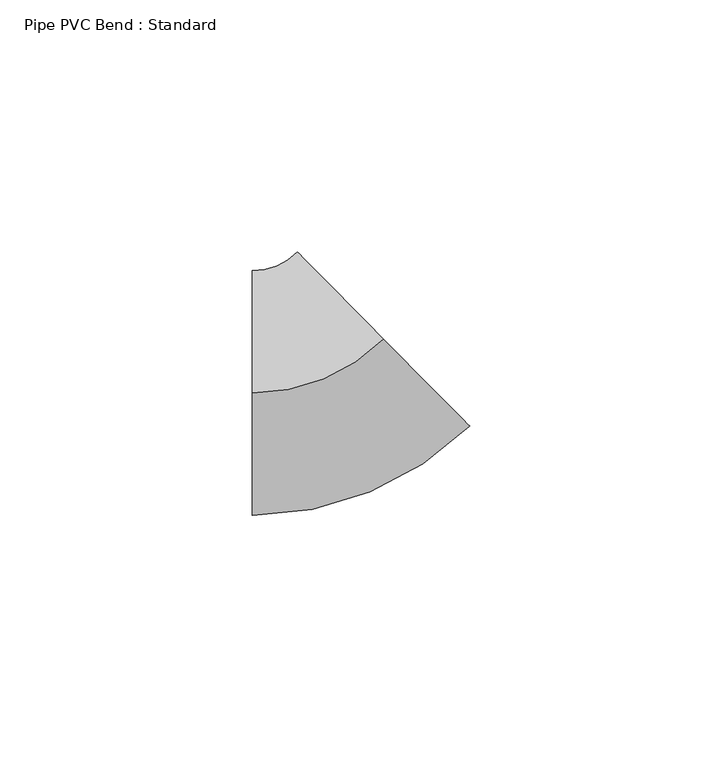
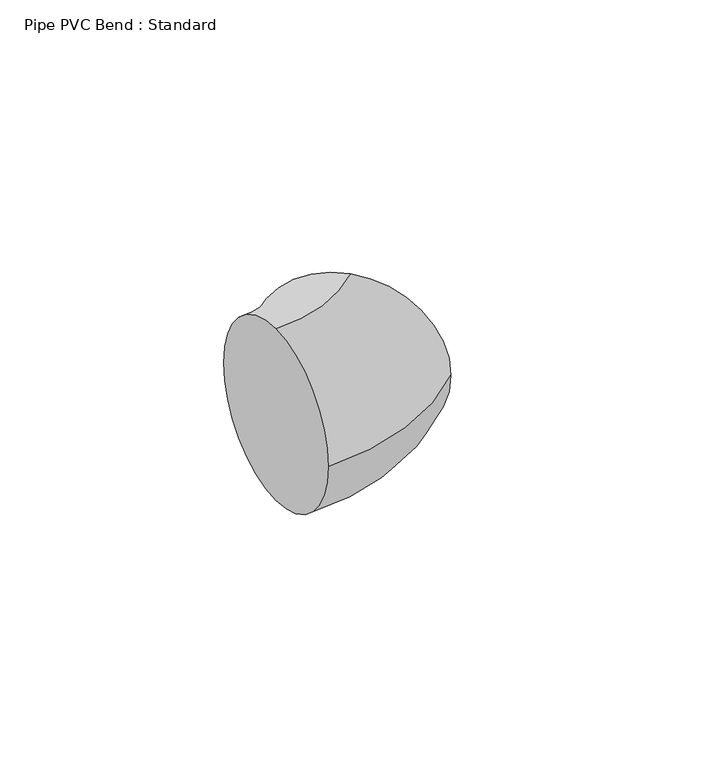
"""IFC4 building model written with IfcOpenShell, lengths in millimetres: pipe fitting geometry, Pipe PVC Bend : Standard."""

import ifcopenshell
import ifcopenshell.guid

model = None  # the IFC model being written
_history = None  # IfcOwnerHistory: only IFC2X3 demands one
_inside = {}  # id of a spatial element -> (the spatial element, [elements in it])
_under = {}  # id of a project, library or spatial element -> (it, [spatial elements below it])
_declared = {}  # id of a project -> (the project, [libraries it declares])
_typed = {}  # id of a type object -> (the type object, [elements of that type])
_made_of = {}  # id of a material, layer set ... -> (it, [elements and type objects made of it])


def new_model(schema):
    """Start an empty IFC model of exactly this schema.

    Asked for "IFC4X3", IfcOpenShell would pick the latest addendum, in which some entities
    have other attributes; the version numbers below select the first issue.
    IFC2X3 requires an IfcOwnerHistory on every rooted entity: one is made here for all.
    """
    global model, _history
    if schema == "IFC4X3":
        model = ifcopenshell.file(schema_version=(4, 3, 0, 0))
    else:
        model = ifcopenshell.file(schema=schema)
    _inside.clear()
    _under.clear()
    _declared.clear()
    _typed.clear()
    _made_of.clear()
    _history = None
    if model.schema == "IFC2X3":
        org = make("IfcOrganization", Name="unknown")
        user = make(
            "IfcPersonAndOrganization",
            ThePerson=make("IfcPerson", FamilyName="unknown"),
            TheOrganization=org,
        )
        app = make(
            "IfcApplication",
            ApplicationDeveloper=org,
            Version="unknown",
            ApplicationFullName="unknown",
            ApplicationIdentifier="unknown",
        )
        _history = make(
            "IfcOwnerHistory",
            OwningUser=user,
            OwningApplication=app,
            ChangeAction="ADDED",
            CreationDate=0,
        )
    return model


def make(cls, **values):
    """One entity of the class cls with the attributes given. An attribute that is None is left unset."""
    return model.create_entity(
        cls, **{name: value for name, value in values.items() if value is not None}
    )


def rooted(cls, **values):
    """An entity with a GlobalId (a new one), such as an element, a storey or a relation."""
    return make(cls, GlobalId=ifcopenshell.guid.new(), OwnerHistory=_history, **values)


def si_unit(unit_type, name, prefix=None):
    """IfcSIUnit, for example si_unit("LENGTHUNIT", "METRE", prefix="MILLI")."""
    return make("IfcSIUnit", UnitType=unit_type, Prefix=prefix, Name=name)


def assignment(units):
    """IfcUnitAssignment: the units of a project."""
    return None if units is None else make("IfcUnitAssignment", Units=units)


def point(xyz):
    """IfcCartesianPoint."""
    return None if xyz is None else make("IfcCartesianPoint", Coordinates=xyz)


def direction(xyz):
    """IfcDirection."""
    return None if xyz is None else make("IfcDirection", DirectionRatios=xyz)


def frame(location, z_axis=None, x_axis=None):
    """IfcAxis2Placement3D, a coordinate frame: its origin and axes. An axis left out is left unset."""
    return make(
        "IfcAxis2Placement3D",
        Location=point(location),
        Axis=direction(z_axis),
        RefDirection=direction(x_axis),
    )


def origin():
    """The frame at (0, 0, 0) with its axes left unset."""
    return frame((0.0, 0.0, 0.0))


def place(relative_to, where):
    """IfcLocalPlacement: puts the frame where relative to a parent placement (None: the world)."""
    return make(
        "IfcLocalPlacement", PlacementRelTo=relative_to, RelativePlacement=where
    )


def context(
    kind, dimensions, precision=None, world=None, true_north=None, identifier=None
):
    """IfcGeometricRepresentationContext, for example the 3D "Model" context."""
    return make(
        "IfcGeometricRepresentationContext",
        ContextIdentifier=identifier,
        ContextType=kind,
        CoordinateSpaceDimension=dimensions,
        Precision=precision,
        WorldCoordinateSystem=world,
        TrueNorth=true_north,
    )


def project(units=None, contexts=None):
    """IfcProject with its units and contexts."""
    return rooted(
        "IfcProject",
        Name="project",
        RepresentationContexts=contexts,
        UnitsInContext=assignment(units),
    )


def spatial(cls, under=None, at=None, **own):
    """A site, building, storey or space (cls), placed at a placement, below another one or the project."""
    s = rooted(cls, ObjectPlacement=at, **own)
    if under is not None:
        _under.setdefault(under.id(), (under, []))[1].append(s)
    return s


def circle_curve(where, radius):
    """IfcCircle in the frame where."""
    return make("IfcCircle", Position=where, Radius=radius)


def ellipse_curve(where, semi_axis1, semi_axis2):
    """IfcEllipse in the frame where."""
    return make(
        "IfcEllipse", Position=where, SemiAxis1=semi_axis1, SemiAxis2=semi_axis2
    )


def trimmed(basis, trim1, trim2, sense, master):
    """IfcTrimmedCurve: the piece of a basis curve between two trims."""
    return make(
        "IfcTrimmedCurve",
        BasisCurve=basis,
        Trim1=trim1,
        Trim2=trim2,
        SenseAgreement=sense,
        MasterRepresentation=master,
    )


def shape(context_of_items, identifier, shape_type, items):
    """IfcShapeRepresentation: the items that make up one representation, for example the "Body"."""
    return make(
        "IfcShapeRepresentation",
        ContextOfItems=context_of_items,
        RepresentationIdentifier=identifier,
        RepresentationType=shape_type,
        Items=items,
    )


def source(mapping_origin, context_of_items, identifier, shape_type, items):
    """IfcRepresentationMap: a shape defined once, which mapped items show again and again."""
    return make(
        "IfcRepresentationMap",
        MappingOrigin=mapping_origin,
        MappedRepresentation=shape(context_of_items, identifier, shape_type, items),
    )


def transform(
    local_origin,
    x_axis=None,
    y_axis=None,
    z_axis=None,
    scale=None,
    scale2=None,
    scale3=None,
    uniform=True,
):
    """IfcCartesianTransformationOperator3D, or its non-uniform kind. x_axis, y_axis, z_axis: its Axis1, 2, 3."""
    if uniform:
        return make(
            "IfcCartesianTransformationOperator3D",
            Axis1=direction(x_axis),
            Axis2=direction(y_axis),
            LocalOrigin=point(local_origin),
            Scale=scale,
            Axis3=direction(z_axis),
        )
    return make(
        "IfcCartesianTransformationOperator3DnonUniform",
        Axis1=direction(x_axis),
        Axis2=direction(y_axis),
        LocalOrigin=point(local_origin),
        Scale=scale,
        Axis3=direction(z_axis),
        Scale2=scale2,
        Scale3=scale3,
    )


def mapped(mapping_source, mapping_target):
    """IfcMappedItem: shows the shape of a source again, moved by a transform."""
    return make(
        "IfcMappedItem", MappingSource=mapping_source, MappingTarget=mapping_target
    )


def made_of(thing, what):
    """Note that an element or type object is made of a material, layer set ...; save() writes the relation."""
    if what is not None:
        _made_of.setdefault(what.id(), (what, []))[1].append(thing)
    return thing


def element(
    cls,
    number,
    at=None,
    inside=None,
    cuts=None,
    type_object=None,
    material=None,
    context=None,
    identifier="Body",
    shape_type=None,
    held_by="IfcProductDefinitionShape",
    body=None,
    shapes=None,
    **own,
):
    """One element of the class cls, such as IfcWall. Its Tag is "e" and its number.

    at: its placement. inside: the storey or other place that contains it. cuts: it is an
    opening in that element (IfcRelVoidsElement). A single representation is given by context,
    identifier, shape_type and body (its items); several are given by shapes. held_by: the class
    of the entity that holds the representations. save() writes the other relations.
    """
    e = rooted(cls, Tag="e%d" % number, ObjectPlacement=at, **own)
    if body is not None:
        shapes = [shape(context, identifier, shape_type, body)]
    if shapes is not None:
        e.Representation = make(held_by, Representations=shapes)
    if inside is not None:
        _inside.setdefault(inside.id(), (inside, []))[1].append(e)
    if cuts is not None:
        rooted(
            "IfcRelVoidsElement", RelatingBuildingElement=cuts, RelatedOpeningElement=e
        )
    if type_object is not None:
        _typed.setdefault(type_object.id(), (type_object, []))[1].append(e)
    return made_of(e, material)


def aggregate(whole, parts):
    """IfcRelAggregates: a whole, such as a stair, and the parts it consists of."""
    return rooted("IfcRelAggregates", RelatingObject=whole, RelatedObjects=parts)


def save(model, path):
    """Write the relations noted so far, then the file.

    IfcRelAggregates (storeys below a building ...), IfcRelContainedInSpatialStructure (elements
    in a storey), IfcRelDefinesByType, IfcRelAssociatesMaterial and IfcRelDeclares: one each for
    every whole, place, type object, material and project.
    """
    for whole, parts in _under.values():
        aggregate(whole, parts)
    for where, things in _inside.values():
        rooted(
            "IfcRelContainedInSpatialStructure",
            RelatedElements=things,
            RelatingStructure=where,
        )
    for kind, things in _typed.values():
        rooted("IfcRelDefinesByType", RelatedObjects=things, RelatingType=kind)
    for what, things in _made_of.values():
        rooted("IfcRelAssociatesMaterial", RelatedObjects=things, RelatingMaterial=what)
    for by, libraries in _declared.values():
        rooted("IfcRelDeclares", RelatingContext=by, RelatedDefinitions=libraries)
    model.write(path)


def plane_surface(at):
    """IfcPlane: the flat surface through the origin of the frame at, square to its z axis."""
    return make("IfcPlane", Position=at)


def revolved_surface(curve, axis_point, axis_direction):
    """IfcSurfaceOfRevolution: the curve turned about the line through axis_point along axis_direction."""
    return make(
        "IfcSurfaceOfRevolution",
        SweptCurve=make("IfcArbitraryOpenProfileDef", ProfileType="CURVE", Curve=curve),
        AxisPosition=make("IfcAxis1Placement", Location=point(axis_point), Axis=direction(axis_direction)),
    )


def advanced_brep(points, edges, surfaces, faces):
    """IfcAdvancedBrep: a solid bounded by faces that lie on surfaces and meet in shared edges.

    An edge is (start, end): straight between two places in points (the first is 0);
    or (start, end, curve); or (start, end, curve, False) where it runs against its curve.
    A face is (place in surfaces, loops), or (place, loops, False) where it looks against
    its surface's normal. A loop lists edges by number (the first is 1), with a minus sign
    where the edge is run from its end to its start. The first loop is the outer one.
    """
    corners = [point(p) for p in points]
    vertices = [make("IfcVertexPoint", VertexGeometry=c) for c in corners]
    made = []
    for start, end, *more in edges:
        made.append(
            make(
                "IfcEdgeCurve",
                EdgeStart=vertices[start],
                EdgeEnd=vertices[end],
                EdgeGeometry=more[0] if more else make("IfcPolyline", Points=[corners[start], corners[end]]),
                SameSense=more[1] if len(more) > 1 else True,
            )
        )
    hull = []
    for where, loops, *sense in faces:
        bounds = []
        for j, loop in enumerate(loops):
            ring = [make("IfcOrientedEdge", EdgeElement=made[abs(k) - 1], Orientation=k > 0) for k in loop]
            bounds.append(
                make(
                    "IfcFaceOuterBound" if j == 0 else "IfcFaceBound",
                    Bound=make("IfcEdgeLoop", EdgeList=ring),
                    Orientation=True,
                )
            )
        hull.append(make("IfcAdvancedFace", Bounds=bounds, FaceSurface=surfaces[where], SameSense=sense[0] if sense else True))
    return make("IfcAdvancedBrep", Outer=make("IfcClosedShell", CfsFaces=hull))


def pipe_pvc_bend_standard_f934f846(model_context):
    return source(origin(), model_context, "Body", "AdvancedBrep", [
        advanced_brep(
        [(-15.1954612, 0.0, 24.257), (-15.1954612, 24.257, 0.0), (-15.1954612, 0.0, -24.257), (-15.1954612, -24.257, 0.0), (10.8006282, 10.6887076, 24.257), (27.8633536, -6.5526801, 0.0), (10.8006282, 10.6887076, -24.257), (-6.2620971, 27.9300954, 0.0)],
        [
            (0, 1, circle_curve(frame((-15.1954612, 0.0, 0.0), z_axis=(-1.0, 0.0, 0.0), x_axis=(0.0, 1.0, 0.0)), 24.257)),
            (1, 2, circle_curve(frame((-15.1954612, 0.0, 0.0), z_axis=(-1.0, 0.0, 0.0), x_axis=(0.0, 1.0, 0.0)), 24.257)),
            (2, 3, circle_curve(frame((-15.1954612, 0.0, 0.0), z_axis=(-1.0, 0.0, 0.0), x_axis=(0.0, 1.0, 0.0)), 24.257)),
            (3, 0, circle_curve(frame((-15.1954612, 0.0, 0.0), z_axis=(-1.0, 0.0, 0.0), x_axis=(0.0, 1.0, 0.0)), 24.257)),
            (4, 5, circle_curve(frame((10.8006282, 10.6887076, 0.0), z_axis=(0.7107798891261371, 0.703414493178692, 0.0), x_axis=(-0.703414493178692, 0.7107798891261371, 0.0)), 24.257)),
            (5, 6, circle_curve(frame((10.8006282, 10.6887076, 0.0), z_axis=(0.7107798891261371, 0.703414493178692, 0.0), x_axis=(-0.703414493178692, 0.7107798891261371, 0.0)), 24.257)),
            (6, 7, circle_curve(frame((10.8006282, 10.6887076, 0.0), z_axis=(0.7107798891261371, 0.703414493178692, 0.0), x_axis=(-0.703414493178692, 0.7107798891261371, 0.0)), 24.257)),
            (7, 4, circle_curve(frame((10.8006282, 10.6887076, 0.0), z_axis=(0.7107798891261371, 0.703414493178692, 0.0), x_axis=(-0.703414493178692, 0.7107798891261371, 0.0)), 24.257)),
            (7, 1, circle_curve(frame((-15.1954612, 36.957, 0.0), z_axis=(0.0, 0.0, -1.0), x_axis=(0.0, -1.0, 0.0)), 12.7)),
            (0, 4, circle_curve(frame((-15.1954612, 36.957, 24.257), z_axis=(0.0, 0.0, 1.0), x_axis=(0.0, -1.0, 0.0)), 36.957)),
            (6, 2, circle_curve(frame((-15.1954612, 36.957, -24.257), z_axis=(0.0, 0.0, -1.0), x_axis=(0.0, -1.0, 0.0)), 36.957)),
            (5, 3, circle_curve(frame((-15.1954612, 36.957, 0.0), z_axis=(0.0, 0.0, -1.0), x_axis=(0.0, -1.0, 0.0)), 61.214)),
        ],
        [
            plane_surface(frame((-15.1954612, 0.0, 0.0), z_axis=(-1.0, 0.0, 0.0), x_axis=(0.0, 0.0, 1.0))),
            plane_surface(frame((10.8006282, 10.6887076, 0.0), z_axis=(0.7107798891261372, 0.7034144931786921, 0.0), x_axis=(0.0, 0.0, 1.0))),
            revolved_surface(trimmed(ellipse_curve(frame((-15.1954612, 0.0, 0.0), z_axis=(-1.0, 0.0, 0.0), x_axis=(0.0, 1.0, 0.0)), 24.257, 24.257), [point((-15.1954612, 0.0, 24.257))], [point((-15.1954612, 24.257, 0.0))], True, "CARTESIAN"), (-15.1954612, 36.957, 0.0), (0.0, 0.0, 1.0)),
            revolved_surface(trimmed(ellipse_curve(frame((-15.1954612, 0.0, 0.0), z_axis=(-1.0, 0.0, 0.0), x_axis=(0.0, 1.0, 0.0)), 24.257, 24.257), [point((-15.1954612, 24.257, 0.0))], [point((-15.1954612, 0.0, -24.257))], True, "CARTESIAN"), (-15.1954612, 36.957, 0.0), (0.0, 0.0, 1.0)),
            revolved_surface(trimmed(ellipse_curve(frame((-15.1954612, 0.0, 0.0), z_axis=(-1.0, 0.0, 0.0), x_axis=(0.0, 1.0, 0.0)), 24.257, 24.257), [point((-15.1954612, 0.0, -24.257))], [point((-15.1954612, -24.257, 0.0))], True, "CARTESIAN"), (-15.1954612, 36.957, 0.0), (0.0, 0.0, 1.0)),
            revolved_surface(trimmed(ellipse_curve(frame((-15.1954612, 0.0, 0.0), z_axis=(-1.0, 0.0, 0.0), x_axis=(0.0, 1.0, 0.0)), 24.257, 24.257), [point((-15.1954612, -24.257, 0.0))], [point((-15.1954612, 0.0, 24.257))], True, "CARTESIAN"), (-15.1954612, 36.957, 0.0), (0.0, 0.0, 1.0)),
        ],
        [
            (0, [[1, 2, 3, 4]]),
            (1, [[5, 6, 7, 8]]),
            (2, [[9, -1, 10, -8]]),
            (3, [[11, -2, -9, -7]]),
            (4, [[12, -3, -11, -6]]),
            (5, [[-10, -4, -12, -5]]),
        ],
    ),
        advanced_brep(
        [(-15.1954612, 0.0, 24.257), (-15.1954612, 24.257, 0.0), (-15.1954612, 0.0, -24.257), (-15.1954612, -24.257, 0.0), (10.8006282, 10.6887076, 24.257), (27.8633536, -6.5526801, 0.0), (10.8006282, 10.6887076, -24.257), (-6.2620971, 27.9300954, 0.0)],
        [
            (0, 1, circle_curve(frame((-15.1954612, 0.0, 0.0), z_axis=(-1.0, 0.0, 0.0), x_axis=(0.0, 1.0, 0.0)), 24.257)),
            (1, 2, circle_curve(frame((-15.1954612, 0.0, 0.0), z_axis=(-1.0, 0.0, 0.0), x_axis=(0.0, 1.0, 0.0)), 24.257)),
            (2, 3, circle_curve(frame((-15.1954612, 0.0, 0.0), z_axis=(-1.0, 0.0, 0.0), x_axis=(0.0, 1.0, 0.0)), 24.257)),
            (3, 0, circle_curve(frame((-15.1954612, 0.0, 0.0), z_axis=(-1.0, 0.0, 0.0), x_axis=(0.0, 1.0, 0.0)), 24.257)),
            (4, 5, circle_curve(frame((10.8006282, 10.6887076, 0.0), z_axis=(0.7107798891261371, 0.703414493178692, 0.0), x_axis=(-0.703414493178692, 0.7107798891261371, 0.0)), 24.257)),
            (5, 6, circle_curve(frame((10.8006282, 10.6887076, 0.0), z_axis=(0.7107798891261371, 0.703414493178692, 0.0), x_axis=(-0.703414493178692, 0.7107798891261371, 0.0)), 24.257)),
            (6, 7, circle_curve(frame((10.8006282, 10.6887076, 0.0), z_axis=(0.7107798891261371, 0.703414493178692, 0.0), x_axis=(-0.703414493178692, 0.7107798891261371, 0.0)), 24.257)),
            (7, 4, circle_curve(frame((10.8006282, 10.6887076, 0.0), z_axis=(0.7107798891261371, 0.703414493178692, 0.0), x_axis=(-0.703414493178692, 0.7107798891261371, 0.0)), 24.257)),
            (7, 1, circle_curve(frame((-15.1954612, 36.957, 0.0), z_axis=(0.0, 0.0, -1.0), x_axis=(0.0, -1.0, 0.0)), 12.7)),
            (0, 4, circle_curve(frame((-15.1954612, 36.957, 24.257), z_axis=(0.0, 0.0, 1.0), x_axis=(0.0, -1.0, 0.0)), 36.957)),
            (6, 2, circle_curve(frame((-15.1954612, 36.957, -24.257), z_axis=(0.0, 0.0, -1.0), x_axis=(0.0, -1.0, 0.0)), 36.957)),
            (5, 3, circle_curve(frame((-15.1954612, 36.957, 0.0), z_axis=(0.0, 0.0, -1.0), x_axis=(0.0, -1.0, 0.0)), 61.214)),
        ],
        [
            plane_surface(frame((-15.1954612, 0.0, 0.0), z_axis=(-1.0, 0.0, 0.0), x_axis=(0.0, 0.0, 1.0))),
            plane_surface(frame((10.8006282, 10.6887076, 0.0), z_axis=(0.7107798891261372, 0.7034144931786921, 0.0), x_axis=(0.0, 0.0, 1.0))),
            revolved_surface(trimmed(ellipse_curve(frame((-15.1954612, 0.0, 0.0), z_axis=(-1.0, 0.0, 0.0), x_axis=(0.0, 1.0, 0.0)), 24.257, 24.257), [point((-15.1954612, 0.0, 24.257))], [point((-15.1954612, 24.257, 0.0))], True, "CARTESIAN"), (-15.1954612, 36.957, 0.0), (0.0, 0.0, 1.0)),
            revolved_surface(trimmed(ellipse_curve(frame((-15.1954612, 0.0, 0.0), z_axis=(-1.0, 0.0, 0.0), x_axis=(0.0, 1.0, 0.0)), 24.257, 24.257), [point((-15.1954612, 24.257, 0.0))], [point((-15.1954612, 0.0, -24.257))], True, "CARTESIAN"), (-15.1954612, 36.957, 0.0), (0.0, 0.0, 1.0)),
            revolved_surface(trimmed(ellipse_curve(frame((-15.1954612, 0.0, 0.0), z_axis=(-1.0, 0.0, 0.0), x_axis=(0.0, 1.0, 0.0)), 24.257, 24.257), [point((-15.1954612, 0.0, -24.257))], [point((-15.1954612, -24.257, 0.0))], True, "CARTESIAN"), (-15.1954612, 36.957, 0.0), (0.0, 0.0, 1.0)),
            revolved_surface(trimmed(ellipse_curve(frame((-15.1954612, 0.0, 0.0), z_axis=(-1.0, 0.0, 0.0), x_axis=(0.0, 1.0, 0.0)), 24.257, 24.257), [point((-15.1954612, -24.257, 0.0))], [point((-15.1954612, 0.0, 24.257))], True, "CARTESIAN"), (-15.1954612, 36.957, 0.0), (0.0, 0.0, 1.0)),
        ],
        [
            (0, [[1, 2, 3, 4]]),
            (1, [[5, 6, 7, 8]]),
            (2, [[9, -1, 10, -8]]),
            (3, [[11, -2, -9, -7]]),
            (4, [[12, -3, -11, -6]]),
            (5, [[-10, -4, -12, -5]]),
        ],
    ),
    ])


if __name__ == "__main__":
    model = new_model("IFC4")
    model_context = context("Model", 3, world=origin())
    ifc_project = project(units=[si_unit("LENGTHUNIT", "METRE", prefix="MILLI")], contexts=[model_context])
    site = spatial("IfcSite", under=ifc_project)
    building = spatial("IfcBuilding", under=site)
    placement = place(None, origin())
    pipe_pvc_bend_standard_shape = pipe_pvc_bend_standard_f934f846(model_context)
    element("IfcPipeFitting", 1, ObjectType="Pipe PVC Bend : Standard", at=placement, inside=building, context=model_context, shape_type="MappedRepresentation", body=[
        mapped(pipe_pvc_bend_standard_shape, transform((0.0, 0.0, 0.0), x_axis=(1.0, 0.0, 0.0), y_axis=(0.0, 1.0, 0.0), z_axis=(0.0, 0.0, 1.0))),
    ])
    save(model, "model.ifc")
